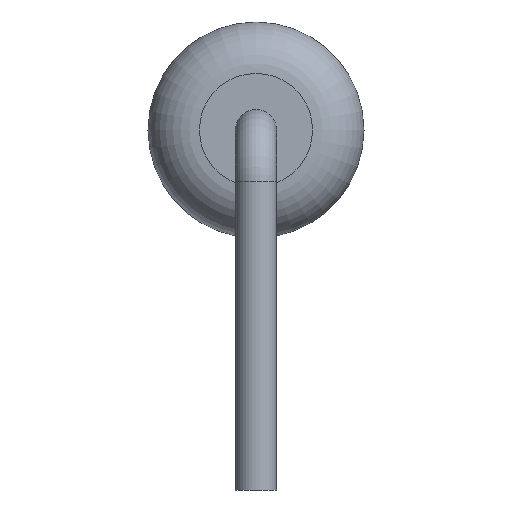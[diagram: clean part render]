
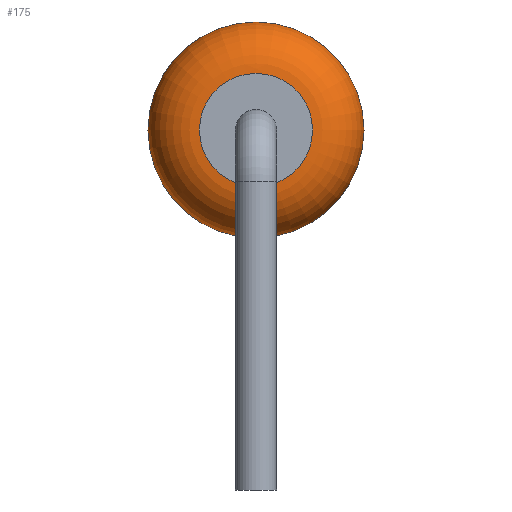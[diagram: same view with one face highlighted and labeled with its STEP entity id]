
A CAD part, left-side view. The second image highlights one B-rep face of the part: STEP entity #175.
In plain terms, the highlighted toroidal (fillet/blend) face has major radius 1.1 mm and minor radius 1 mm.
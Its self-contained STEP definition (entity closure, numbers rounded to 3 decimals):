
#175=ADVANCED_FACE('',(#344,#346),#348,.T.);
#344=FACE_OUTER_BOUND('',#345,.T.);
#345=EDGE_LOOP('',(#421));
#346=FACE_OUTER_BOUND('',#347,.T.);
#347=EDGE_LOOP('',(#422));
#348=TOROIDAL_SURFACE('',#349,1.1,1.);
#349=AXIS2_PLACEMENT_3D('',#350,#351,#352);
#350=CARTESIAN_POINT('',(-4.4,0.,0.));
#351=DIRECTION('',(-1.,0.,0.));
#352=DIRECTION('',(0.,0.,1.));
#421=ORIENTED_EDGE('',*,*,#444,.T.);
#422=ORIENTED_EDGE('',*,*,#445,.F.);
#444=EDGE_CURVE('',#474,#474,#475,.T.);
#445=EDGE_CURVE('',#476,#476,#477,.T.);
#474=VERTEX_POINT('',#546);
#475=CIRCLE('',#547,2.1);
#476=VERTEX_POINT('',#551);
#477=CIRCLE('',#552,1.1);
#546=CARTESIAN_POINT('',(-4.4,0.,2.1));
#547=AXIS2_PLACEMENT_3D('',#548,#549,#550);
#548=CARTESIAN_POINT('',(-4.4,0.,0.));
#549=DIRECTION('',(-1.,0.,0.));
#550=DIRECTION('',(0.,0.,1.));
#551=CARTESIAN_POINT('',(-5.4,0.,1.1));
#552=AXIS2_PLACEMENT_3D('',#553,#554,#555);
#553=CARTESIAN_POINT('',(-5.4,0.,0.));
#554=DIRECTION('',(-1.,0.,0.));
#555=DIRECTION('',(0.,0.,1.));
